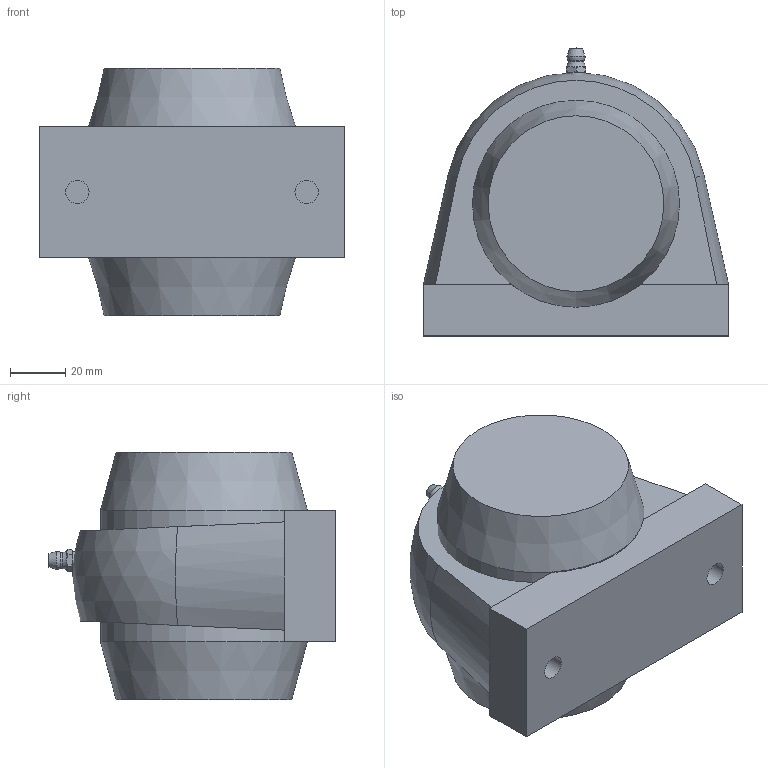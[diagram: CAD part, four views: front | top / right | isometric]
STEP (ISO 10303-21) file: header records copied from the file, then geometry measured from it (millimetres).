
FILE_DESCRIPTION(/* description */ (''),/* implementation_level */ '2;1');
FILE_NAME(/* name */ 'C:\Users\UGijyutu_200702\Desktop\77.プラスチックハウジング\MBTBL200V\MBTBL200VE\MBTBL207VE.stp',/* time_stamp */ '2024-05-28T13:22:38+09:00',/* author */ ('UGijyutu_200702'),/* organization */ (''),/* preprocessor_version */ 'ST-DEVELOPER v18',/* originating_system */ 'Autodesk Inventor 2020',/* authorisation */ '');
FILE_SCHEMA (('AUTOMOTIVE_DESIGN { 1 0 10303 214 3 1 1 }'));
Length unit declared in the file: millimetre
Products named in the file (6): MBTBL207V; TBL207; MB7 V; 1/4-28UNF-2A; 207C; 207E
Assembly tree (5 placements, depth 2):
  MBTBL207V
    TBL207
    MB7 V
    1/4-28UNF-2A
    207C
    207E
Bounding box: 110 x 103.8 x 89.3 mm (x, y, z)
Volume: 287214.4 mm3; surface area: 90785.7 mm2
Topology: 5 solids, 5 shells, 104 faces, 251 edges, 172 vertices
Faces by surface type: plane 54, cylinder 24, cone 19, sphere 5, torus 2
Full cylindrical faces by diameter (mm): 3.2 x1, 5.359 x1, 6 x2, 6.35 x1, 8.376 x2, 35 x2, 40 x1, 48 x1, 51 x1, 70.6 x2, 74 x2, 74.6 x2
Entity records: 3582 total; most frequent: CARTESIAN_POINT 791, DIRECTION 563, ORIENTED_EDGE 500, EDGE_CURVE 250, AXIS2_PLACEMENT_3D 236, VERTEX_POINT 172, EDGE_LOOP 128, CIRCLE 111
